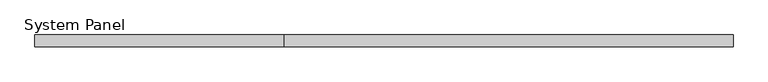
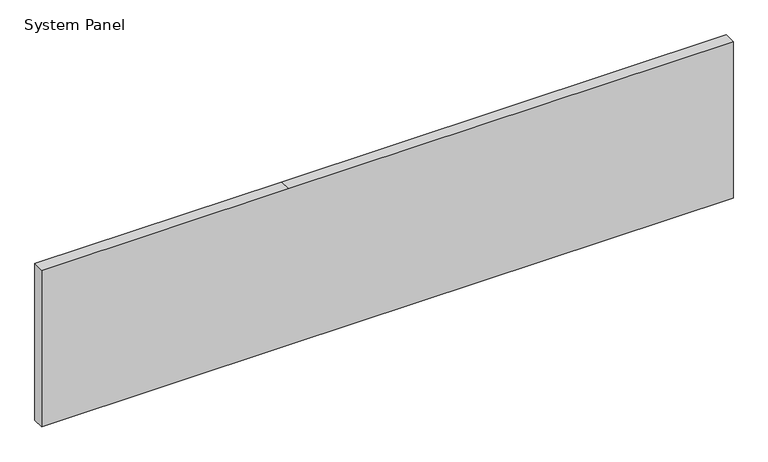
"""IFC4 building model written with IfcOpenShell, lengths in millimetres: plate geometry, System Panel : Glazed - ACMP (AL-1)."""

from ifc_helpers import new_model, si_unit, frame, origin, place, context, project, spatial, polyline, outline, extrude, source, transform, mapped, element, save


def system_panel_d9755314(model_context):
    return source(origin(), model_context, "Body", "SweptSolid", [
        extrude(outline(polyline([(0.0, -755.65), (0.0, -215.9), (0.0, 755.65), (361.95, 755.65), (361.95, -215.9), (361.95, -755.65), (0.0, -755.65)])), frame((0.0, 0.0, 0.0), z_axis=(0.0, 1.0, 0.0), x_axis=(0.0, 0.0, 1.0)), (0.0, 0.0, 1.0), 25.4),
    ])


if __name__ == "__main__":
    model = new_model("IFC4")
    model_context = context("Model", 3, world=origin())
    ifc_project = project(units=[si_unit("LENGTHUNIT", "METRE", prefix="MILLI")], contexts=[model_context])
    site = spatial("IfcSite", under=ifc_project)
    building = spatial("IfcBuilding", under=site)
    placement = place(None, origin())
    system_panel_shape = system_panel_d9755314(model_context)
    element("IfcPlate", 1, ObjectType="System Panel : Glazed - ACMP (AL-1)", at=placement, inside=building, context=model_context, shape_type="MappedRepresentation", body=[
        mapped(system_panel_shape, transform((0.0, 0.0, 0.0), x_axis=(1.0, 0.0, 0.0), y_axis=(0.0, 1.0, 0.0), z_axis=(0.0, 0.0, 1.0))),
    ])
    save(model, "model.ifc")
